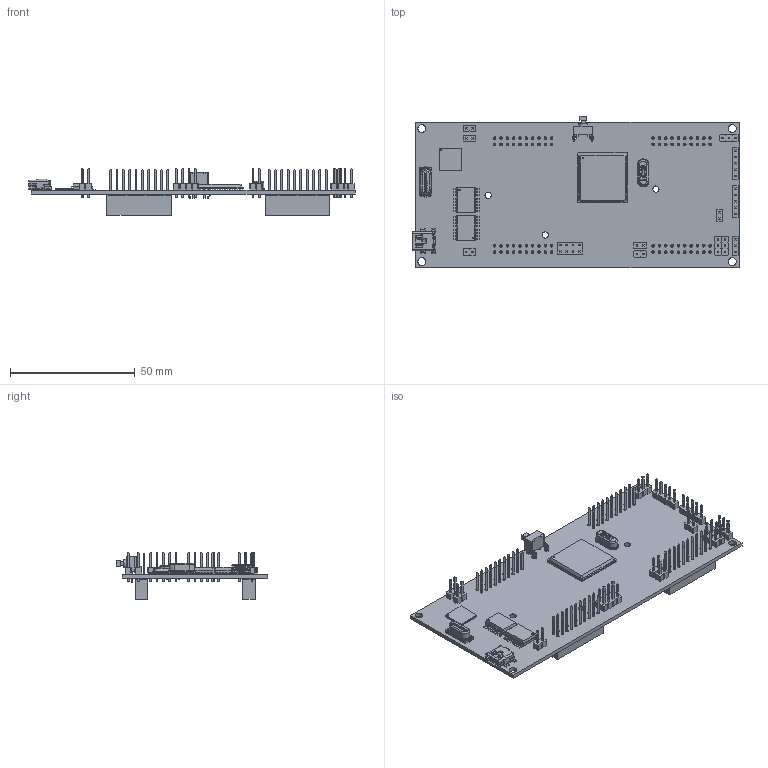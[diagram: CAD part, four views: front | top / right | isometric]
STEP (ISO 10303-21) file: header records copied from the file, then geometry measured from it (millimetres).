
FILE_DESCRIPTION(('FreeCAD Model'),'2;1');
FILE_NAME('D:\Mitja\Plate\Kicad_libs\official_libs\Packages3D\noname_cp.step','2017-10-02T14:12:28',('kicad StepUp'),('ksu MCAD'), 'Open CASCADE STEP processor 7.1','FreeCAD','Unknown');
FILE_SCHEMA(('AUTOMOTIVE_DESIGN { 1 0 10303 214 1 1 1 1 }'));
Products named in the file (1): noname_cp
Bounding box: 130.89 x 60.89 x 18.65 mm (x, y, z)
Volume: 18348.1 mm3; surface area: 29390.5 mm2
Topology: 29 solids, 675 shells, 4731 faces, 13940 edges, 9929 vertices
Faces by surface type: plane 3413, cylinder 683, bspline 275, sphere 189, torus 161, cone 10
Full cylindrical faces by diameter (mm): 0.5 x2, 0.6 x2, 0.813 x2, 0.9 x2, 1 x122, 1.016 x2, 1.499 x2, 2.489 x3, 3.175 x4
Entity records: 199337 total; most frequent: CARTESIAN_POINT 40074, DIRECTION 24956, ORIENTED_EDGE 24599, EDGE_CURVE 13740, LINE 10142, VECTOR 10142, VERTEX_POINT 9928, AXIS2_PLACEMENT_3D 7407
